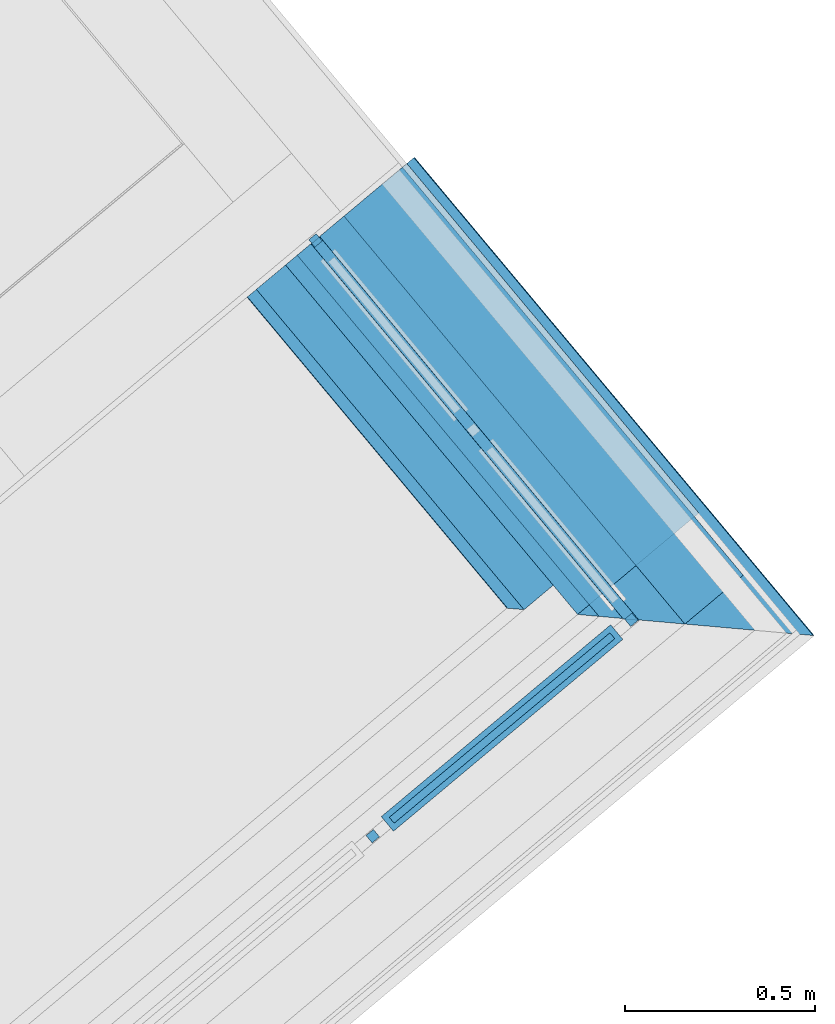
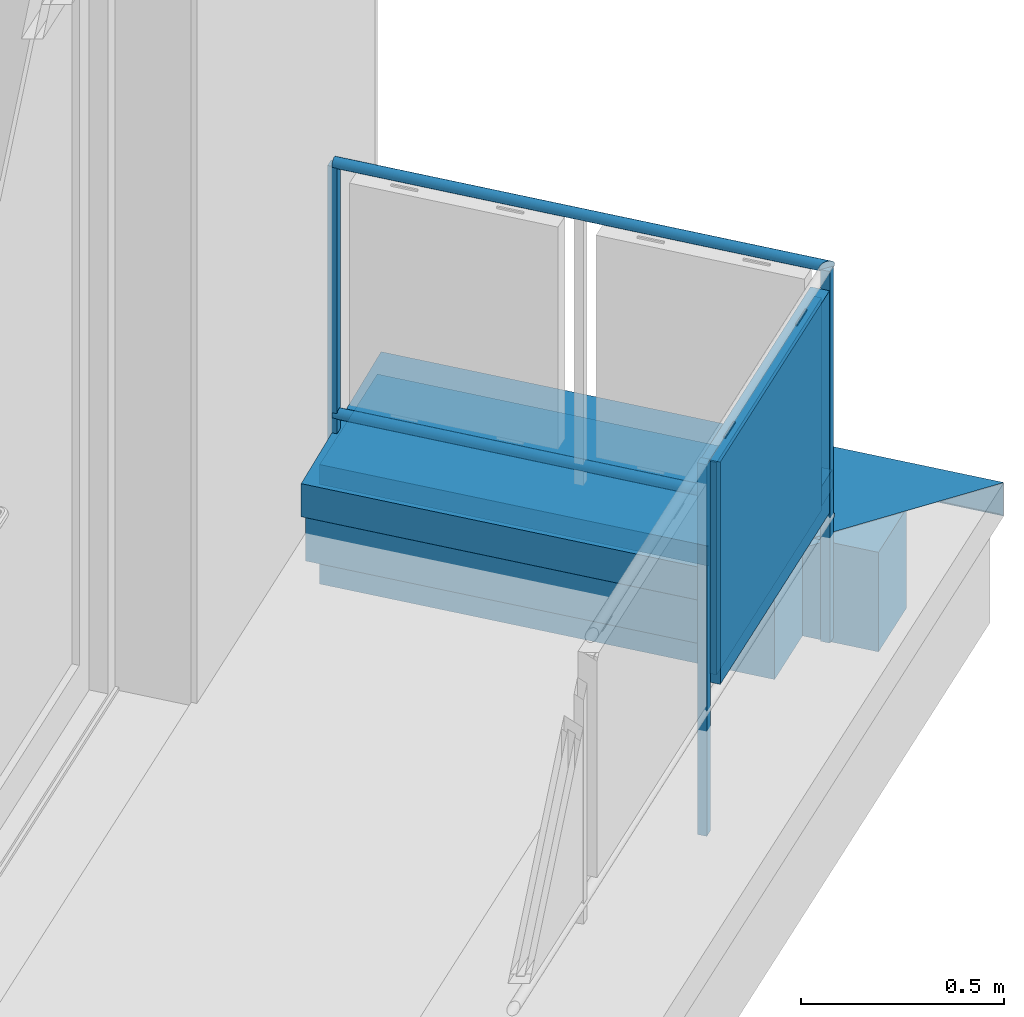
# One storey, part 34 of 47: 14 building element parts, 2 elements without a shape of their own.
"""IFC4 building model written with IfcOpenShell, lengths in metres."""

from ifc_helpers import new_model, entity, si_unit, converted_unit, derived_unit, direction, frame, origin_with_axes, place, context, subcontext, project, spatial, polygons, material, type_object, element, aggregate, save


model = new_model("IFC4")

# Units and contexts
model_context = context("Model", 3, precision=1e-05, world=origin_with_axes(), true_north=direction((0.0, 1.0)))
body_context = subcontext(model_context, "Body", "Model", "MODEL_VIEW")
ifc_project = project(units=[si_unit("LENGTHUNIT", "METRE"), si_unit("AREAUNIT", "SQUARE_METRE"), si_unit("VOLUMEUNIT", "CUBIC_METRE"), converted_unit("PLANEANGLEUNIT", "DEGREE", entity("IfcPlaneAngleMeasure", 0.0174532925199), si_unit("PLANEANGLEUNIT", "RADIAN"), dimensions=[0, 0, 0, 0, 0, 0, 0]), converted_unit("TIMEUNIT", "Year", entity("IfcTimeMeasure", 31556926.0), si_unit("TIMEUNIT", "SECOND"), dimensions=[0, 0, 1, 0, 0, 0, 0]), si_unit("MASSUNIT", "GRAM", prefix="KILO"), si_unit("THERMODYNAMICTEMPERATUREUNIT", "DEGREE_CELSIUS"), si_unit("LUMINOUSINTENSITYUNIT", "LUMEN"), si_unit("ENERGYUNIT", "JOULE", prefix="MEGA"), derived_unit("THERMALCONDUCTANCEUNIT", [(si_unit("POWERUNIT", "WATT"), 1), (si_unit("LENGTHUNIT", "METRE"), -1), (si_unit("THERMODYNAMICTEMPERATUREUNIT", "KELVIN"), -1)]), derived_unit("SPECIFICHEATCAPACITYUNIT", [(si_unit("ENERGYUNIT", "JOULE"), 1), (si_unit("MASSUNIT", "GRAM", prefix="KILO"), -1), (si_unit("THERMODYNAMICTEMPERATUREUNIT", "KELVIN"), -1)]), derived_unit("MASSDENSITYUNIT", [(si_unit("MASSUNIT", "GRAM", prefix="KILO"), 1), (si_unit("VOLUMEUNIT", "CUBIC_METRE"), -1)])], contexts=[model_context])

# Site, building, storey
site_placement = place(None, frame((-0.00153261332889, -0.00661245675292, 0.0), z_axis=(0.0, 0.0, 1.0), x_axis=(1.0, 0.0, 0.0)))
site = spatial("IfcSite", under=ifc_project, at=site_placement, Name="Site", CompositionType="ELEMENT")
building_placement = place(site_placement, origin_with_axes())
building = spatial("IfcBuilding", under=site, at=building_placement, Name="Building", CompositionType="ELEMENT")
storey_placement = place(building_placement, frame((0.0, 0.0, 8.66), z_axis=(0.0, 0.0, 1.0), x_axis=(1.0, 0.0, 0.0)))
storey = spatial("IfcBuildingStorey", under=building, at=storey_placement, Name="DG2", CompositionType="ELEMENT", Elevation=8.66)

# Wall, building element parts
wall_type = type_object("IfcWallType", Name="Bauteil - Attika Terrasse 1.DG 574 x 410", PredefinedType="NOTDEFINED")
wall_placement = place(storey_placement, frame((13.0950046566, 20.3058232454, -0.2), z_axis=(0.0, 0.0, 1.0), x_axis=(-0.641209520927, 0.767365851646, 0.0)))
wall = element("IfcWall", 1, at=wall_placement, inside=storey, type_object=wall_type, Name="Wand-005", PredefinedType="NOTDEFINED")
ifc_material_1 = material(Name="Stahl")
building_element_part_1_placement = place(wall_placement, origin_with_axes())
building_element_part_1 = element("IfcBuildingElementPart", 2, at=building_element_part_1_placement, material=ifc_material_1, Name="Stahl", PredefinedType="NOTDEFINED", context=body_context, shape_type="Tessellation", body=[
    polygons([(0.331835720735, 0.332051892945, 0.498822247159), (0.331835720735, 0.332051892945, 0.49100648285), (0.331836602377, 0.330698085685, 0.491006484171), (0.331836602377, 0.330698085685, 0.498822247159), (0.331835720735, 0.332051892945, 0.489652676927), (0.331835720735, 0.332051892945, 0.499999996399), (0.331835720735, 0.332051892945, 0.50905023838), (0.331835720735, 0.332051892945, 0.511361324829), (0.331835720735, 0.332051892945, 0.519224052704), (0.331835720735, 0.332051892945, 0.559999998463), (0.331835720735, 0.332051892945, 0.567947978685), (0.331835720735, 0.332051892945, 0.573880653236), (0.331835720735, 0.332051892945, 0.575979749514), (0.331835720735, 0.332051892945, 0.584015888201), (0.331835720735, 0.332051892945, 0.586106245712), (0.331835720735, 0.332051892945, 0.587938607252), (0.331835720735, 0.332051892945, 0.589243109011), (1.39632238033, 0.332051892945, 0.589243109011), (1.39632238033, 0.332051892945, 0.489652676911), (0.331836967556, 0.330137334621, 0.489652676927), (0.331837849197, 0.328783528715, 0.491006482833), (1.39632238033, 0.330698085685, 0.491006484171), (1.39632238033, 0.330698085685, 0.587937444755), (0.331836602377, 0.330698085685, 0.587937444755), (0.331836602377, 0.330698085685, 0.586106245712), (0.331836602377, 0.330698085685, 0.584015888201), (0.331836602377, 0.330698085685, 0.575979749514), (0.331836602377, 0.330698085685, 0.573880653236), (0.331836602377, 0.330698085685, 0.567947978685), (0.331836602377, 0.330698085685, 0.559999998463), (0.331836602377, 0.330698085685, 0.519224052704), (0.331836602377, 0.330698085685, 0.511361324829), (0.331836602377, 0.330698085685, 0.50905023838), (0.331836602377, 0.330698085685, 0.499999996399), (0.33183662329, 0.330665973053, 0.587938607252), (0.331860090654, 0.294630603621, 0.589243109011), (-0.201718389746, -0.201849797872, 0.608570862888), (-0.202598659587, -0.202730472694, 0.608602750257), (-0.241342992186, -0.241500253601, 0.610006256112), (1.39632238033, -0.241500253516, 0.610006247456), (1.39632238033, 0.331094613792, 0.488695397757), (1.39632238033, -0.241500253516, 0.510007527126), (1.39632238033, -0.240542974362, 0.509050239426), (1.39632238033, -0.231373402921, 0.518219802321), (1.39632238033, -0.232283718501, 0.519224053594), (1.39632238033, -0.240146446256, 0.51136132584), (1.39632238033, -0.240152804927, 0.608602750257), (1.39632238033, -0.239276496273, 0.608570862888), (1.39632238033, 0.32288233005, 0.498822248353), (1.39632238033, 0.321878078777, 0.497911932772), (0.330879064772, 0.331094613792, 0.488695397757), (0.323583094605, 0.32187807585, 0.497911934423), (0.330484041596, 0.328783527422, 0.49100648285), (0.330482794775, 0.33069808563, 0.49100648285), (-0.201694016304, -0.239276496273, 0.608570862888), (0.322672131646, 0.322882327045, 0.498822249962), (-0.202574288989, -0.240152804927, 0.608602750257), (-0.202573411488, -0.241500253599, 0.608602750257), (-0.239995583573, -0.241500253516, 0.608602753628), (-0.239995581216, -0.241500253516, 0.608570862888), (-0.239994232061, -0.241500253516, 0.587938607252), (-0.239994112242, -0.241500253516, 0.586106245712), (-0.239993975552, -0.241500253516, 0.584015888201), (-0.239993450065, -0.241500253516, 0.575979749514), (-0.239993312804, -0.241500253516, 0.573880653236), (-0.239992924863, -0.241500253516, 0.567947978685), (-0.23999240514, -0.241500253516, 0.560000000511), (-0.239989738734, -0.241500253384, 0.519224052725), (-0.239989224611, -0.241500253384, 0.511361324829), (-0.238074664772, -0.241500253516, 0.511361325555), (-0.239428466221, -0.241500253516, 0.510007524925), (-0.240386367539, -0.240542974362, 0.50905023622), (-0.238076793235, -0.238231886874, 0.511361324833), (-0.231222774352, -0.23137340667, 0.518219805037), (-0.232132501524, -0.23228372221, 0.519224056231), (-0.231221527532, -0.233287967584, 0.518219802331), (-0.23807554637, -0.24014644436, 0.511361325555), (-0.239990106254, -0.24014644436, 0.511361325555), (-0.239990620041, -0.240146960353, 0.519224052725), (-0.239993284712, -0.240149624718, 0.560000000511), (-0.239993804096, -0.240150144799, 0.567947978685), (-0.239994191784, -0.240150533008, 0.573880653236), (-0.239994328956, -0.240150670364, 0.575979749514), (-0.239994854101, -0.240151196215, 0.584015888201), (-0.239994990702, -0.240151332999, 0.586106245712), (-0.239995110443, -0.240151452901, 0.587938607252), (-0.239996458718, -0.240152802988, 0.608570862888), (-0.239996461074, -0.240152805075, 0.608602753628)], [[[1, 2, 3, 4]], [[5, 2, 1, 6, 7, 8, 9, 10, 11, 12, 13, 14, 15, 16, 17, 18, 19]], [[2, 5, 20, 21, 3]], [[22, 23, 24, 25, 26, 27, 28, 29, 30, 31, 32, 33, 34, 4, 3]], [[1, 4, 34, 6]], [[7, 6, 34, 33]], [[8, 7, 33, 32]], [[9, 8, 32, 31]], [[10, 9, 31, 30]], [[11, 10, 30, 29]], [[12, 11, 29, 28]], [[13, 12, 28, 27]], [[14, 13, 27, 26]], [[15, 14, 26, 25]], [[16, 15, 25, 24]], [[17, 16, 24, 35, 36]], [[18, 17, 37, 38, 39, 40]], [[41, 19, 18, 40, 42, 43, 44, 45, 46, 47, 48, 23, 22, 49, 50]], [[5, 19, 41, 51]], [[5, 51, 20]], [[41, 50, 52, 53, 21, 20, 51]], [[53, 54, 3, 21]], [[24, 23, 48, 55, 36, 35]], [[49, 22, 3, 54, 56]], [[37, 17, 36, 55]], [[38, 37, 55, 57]], [[38, 57, 58, 39]], [[42, 40, 39, 58, 59, 60, 61, 62, 63, 64, 65, 66, 67, 68, 69, 70, 71]], [[43, 42, 71, 72]], [[44, 43, 72, 73, 74]], [[45, 44, 74, 75]], [[46, 45, 75, 76, 77]], [[47, 46, 77, 78, 79, 80, 81, 82, 83, 84, 85, 86, 87, 88, 57]], [[48, 47, 57, 55]], [[50, 49, 56, 52]], [[56, 54, 53, 52]], [[58, 57, 88, 59]], [[87, 60, 59, 88]], [[86, 61, 60, 87]], [[85, 62, 61, 86]], [[84, 63, 62, 85]], [[84, 83, 64, 63]], [[83, 82, 65, 64]], [[82, 81, 66, 65]], [[81, 80, 67, 66]], [[80, 79, 68, 67]], [[79, 78, 69, 68]], [[78, 77, 70, 69]], [[77, 73, 72, 71, 70]], [[73, 77, 76, 74]], [[75, 74, 76]]], closed=True),
])
ifc_material_2 = material(Name="Holzwerkstoff")
building_element_part_2_placement = place(wall_placement, origin_with_axes())
building_element_part_2 = element("IfcBuildingElementPart", 3, at=building_element_part_2_placement, material=ifc_material_2, Name="Holzwerkstoff", PredefinedType="NOTDEFINED", context=body_context, shape_type="Tessellation", body=[
    polygons([(1.39632238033, 0.329999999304, 0.567947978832), (1.39632238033, 0.160110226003, 0.573880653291), (0.330102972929, 0.160110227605, 0.573880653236), (0.329785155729, 0.329999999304, 0.567947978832), (1.39632238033, 0.330698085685, 0.587938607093), (1.39632238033, -0.239276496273, 0.608570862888), (1.39632238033, -0.239999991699, 0.587852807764), (1.39632238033, -0.189984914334, 0.586106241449), (1.39632238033, -0.130124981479, 0.584015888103), (1.39632238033, 0.100000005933, 0.575979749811), (0.330215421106, 0.100000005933, 0.575979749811), (0.329992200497, 0.330207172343, 0.573880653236), (0.330065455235, 0.330280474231, 0.57597974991), (0.33034590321, 0.330561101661, 0.584015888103), (0.330418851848, 0.330634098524, 0.586106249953), (0.330482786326, 0.330698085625, 0.587938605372), (-0.239120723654, -0.239276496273, 0.608570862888), (0.330854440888, -0.23999699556, 0.587938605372), (0.330851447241, -0.239999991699, 0.587852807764), (0.330757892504, -0.189984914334, 0.586106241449), (0.330645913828, -0.130124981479, 0.584015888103)], [[[1, 2, 3, 4]], [[1, 5, 6, 7, 8, 9, 10, 2]], [[2, 10, 11, 3]], [[12, 4, 3]], [[5, 1, 4, 12, 13, 14, 15, 16]], [[5, 16, 17, 6]], [[7, 6, 17, 18, 19]], [[8, 7, 19, 20]], [[9, 8, 20, 21]], [[10, 9, 21, 11]], [[13, 12, 3, 11]], [[14, 13, 11, 21]], [[15, 14, 21, 20]], [[16, 15, 20, 19, 18]], [[17, 16, 18]]], closed=True),
])
ifc_material_3 = material(Name="EPS 1")
building_element_part_3_placement = place(wall_placement, origin_with_axes())
building_element_part_3 = element("IfcBuildingElementPart", 4, at=building_element_part_3_placement, material=ifc_material_3, Name="EPS 1", PredefinedType="NOTDEFINED", context=body_context, shape_type="Tessellation", body=[
    polygons([(0.299804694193, 0.3, 0.560000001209), (0.299869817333, 0.2, 0.560000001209), (1.39632238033, 0.2, 0.560000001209), (1.39632238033, 0.3, 0.560000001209), (0.299869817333, 0.2, 0.519224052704), (0.299804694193, 0.3, 0.519224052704), (0.299869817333, 0.2, 0.511361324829), (0.299869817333, 0.2, 0.50905023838), (0.299869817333, 0.2, 0.499999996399), (0.299869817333, 0.2, 0.498822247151), (0.299869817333, 0.2, 0.49100648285), (0.299869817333, 0.2, 0.488695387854), (0.299869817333, 0.2, 0.335), (1.39632238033, 0.2, 0.335), (1.39632238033, 0.3, 0.335), (0.299804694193, 0.3, 0.335), (0.299804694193, 0.3, 0.488695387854), (0.299804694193, 0.3, 0.49100648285), (0.299804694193, 0.3, 0.498822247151), (0.299804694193, 0.3, 0.499999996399), (0.299804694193, 0.3, 0.50905023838), (0.299804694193, 0.3, 0.511361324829)], [[[1, 2, 3, 4]], [[5, 2, 1, 6]], [[2, 5, 7, 8, 9, 10, 11, 12, 13, 14, 3]], [[3, 14, 15, 4]], [[6, 1, 4, 15, 16, 17, 18, 19, 20, 21, 22]], [[5, 6, 22, 7]], [[7, 22, 21, 8]], [[20, 9, 8, 21]], [[19, 10, 9, 20]], [[10, 19, 18, 11]], [[11, 18, 17, 12]], [[12, 17, 16, 13]], [[13, 16, 15, 14]]], closed=True),
])
ifc_material_4 = material(Name="Vollholz")
building_element_part_4_placement = place(wall_placement, origin_with_axes())
building_element_part_4 = element("IfcBuildingElementPart", 5, at=building_element_part_4_placement, material=ifc_material_4, Name="Vollholz", PredefinedType="NOTDEFINED", context=body_context, shape_type="Tessellation", body=[
    polygons([(0.159958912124, 0.160063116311, 0.567947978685), (0.159895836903, 0.16, 0.560000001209), (0.159934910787, 0.1, 0.560000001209), (0.159998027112, 0.1, 0.567947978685), (0.160005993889, 0.160110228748, 0.573880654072), (1.39632238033, 0.160110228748, 0.573880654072), (1.39632238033, 0.16, 0.560000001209), (1.39632238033, 0.1, 0.560000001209), (1.39632238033, 0.1, 0.575979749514), (0.0999348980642, 0.1, 0.575979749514), (0.160045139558, 0.1, 0.573880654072)], [[[1, 2, 3, 4]], [[5, 6, 7, 2, 1]], [[7, 8, 3, 2]], [[8, 9, 10, 11, 4, 3]], [[5, 1, 4, 11]], [[6, 5, 10, 9]], [[7, 6, 9, 8]], [[5, 11, 10]]], closed=True),
])
ifc_material_5 = material(Name="Stahlbeton")
building_element_part_5_placement = place(wall_placement, origin_with_axes())
building_element_part_5 = element("IfcBuildingElementPart", 6, at=building_element_part_5_placement, material=ifc_material_5, Name="Stahlbeton", PredefinedType="NOTDEFINED", context=body_context, shape_type="Tessellation", body=[
    polygons([(0.199869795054, 0.199999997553, 0.500000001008), (0.200000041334, 4.57443860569e-10, 0.500000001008), (1.39632238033, 1.8283543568e-09, 0.500000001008), (1.39632238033, 0.199999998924, 0.500000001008), (0.200000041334, 0.0, 0.498822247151), (0.199869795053, 0.199999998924, 0.498822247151), (0.200000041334, 0.0, 0.49100648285), (0.200000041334, 0.0, 0.488695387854), (0.200000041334, 0.0, 0.335), (0.200000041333, 1.1539533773e-09, 0.2), (1.39632238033, 1.8283543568e-09, 0.2), (1.39632238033, 0.199999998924, 0.2), (1.39632238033, 0.199999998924, 0.335000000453), (0.199869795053, 0.199999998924, 0.335), (0.199869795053, 0.199999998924, 0.488695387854), (0.199869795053, 0.199999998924, 0.49100648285), (0.199869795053, 0.199999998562, 0.2)], [[[1, 2, 3, 4]], [[5, 2, 1, 6]], [[2, 5, 7, 8, 9, 10, 11, 3]], [[11, 12, 13, 4, 3]], [[6, 1, 4, 13, 14, 15, 16]], [[5, 6, 16, 7]], [[16, 15, 8, 7]], [[14, 9, 8, 15]], [[10, 9, 14, 17]], [[10, 17, 12, 11]], [[17, 14, 13, 12]]], closed=True),
])
building_element_part_6_placement = place(wall_placement, origin_with_axes())
building_element_part_6 = element("IfcBuildingElementPart", 7, at=building_element_part_6_placement, material=ifc_material_3, Name="EPS 1", PredefinedType="NOTDEFINED", context=body_context, shape_type="Tessellation", body=[
    polygons([(-2.38710384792e-10, -1.8400143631e-09, 0.499999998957), (0.000130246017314, -0.199999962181, 0.499999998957), (1.39632238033, -0.19999996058, 0.499999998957), (1.39632238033, -2.39911202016e-10, 0.499999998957), (0.000130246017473, -0.199999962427, 0.498822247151), (-2.39163355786e-10, -1.14826192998e-09, 0.498822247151), (0.000130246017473, -0.199999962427, 0.49100648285), (0.000130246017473, -0.199999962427, 0.488695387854), (0.000130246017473, -0.199999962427, 0.335), (0.00013024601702, -0.199999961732, 0.2), (1.39632238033, -0.19999996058, 0.2), (1.39632238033, -2.39911202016e-10, 0.2), (-2.39243291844e-10, -1.02706465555e-09, 0.2), (-2.39163355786e-10, -1.14826192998e-09, 0.335), (-2.39163355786e-10, -1.14826192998e-09, 0.488695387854), (-2.39163355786e-10, -1.14826192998e-09, 0.49100648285)], [[[1, 2, 3, 4]], [[5, 2, 1, 6]], [[2, 5, 7, 8, 9, 10, 11, 3]], [[11, 12, 4, 3]], [[6, 1, 4, 12, 13, 14, 15, 16]], [[5, 6, 16, 7]], [[7, 16, 15, 8]], [[8, 15, 14, 9]], [[9, 14, 13, 10]], [[10, 13, 12, 11]]], closed=True),
])
ifc_material_6 = material(Name="Brettschichtholz")
building_element_part_7_placement = place(wall_placement, origin_with_axes())
building_element_part_7 = element("IfcBuildingElementPart", 8, at=building_element_part_7_placement, material=ifc_material_6, Name="Brettschichtholz", PredefinedType="NOTDEFINED", context=body_context, shape_type="Tessellation", body=[
    polygons([(0.200123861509, -0.190124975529, 0.559999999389), (0.200140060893, -0.214999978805, 0.559999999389), (1.39632238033, -0.214999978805, 0.559999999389), (1.39632238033, -0.190124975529, 0.559999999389), (0.200140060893, -0.214999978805, 0.519224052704), (0.200084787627, -0.130124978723, 0.559999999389), (0.199934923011, 0.100000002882, 0.559999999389), (0.199895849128, 0.159999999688, 0.559999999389), (0.199869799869, 0.200000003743, 0.559999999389), (0.199869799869, 0.200000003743, 0.519224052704), (0.200140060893, -0.214999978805, 0.511361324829), (0.200140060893, -0.214999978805, 0.50905023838), (0.200140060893, -0.214999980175, 0.500000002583), (1.39632238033, -0.214999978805, 0.499999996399), (1.39632238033, 0.200000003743, 0.500000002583), (1.39632238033, 0.200000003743, 0.559999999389), (1.39632238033, 0.159999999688, 0.559999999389), (1.39632238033, 0.100000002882, 0.559999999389), (1.39632238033, -0.130124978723, 0.559999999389), (0.19986979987, 0.200000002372, 0.500000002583), (0.199869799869, 0.200000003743, 0.50905023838), (0.199869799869, 0.200000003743, 0.511361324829)], [[[1, 2, 3, 4]], [[5, 2, 1, 6, 7, 8, 9, 10]], [[2, 5, 11, 12, 13, 14, 3]], [[3, 14, 15, 16, 17, 18, 19, 4]], [[6, 1, 4, 19]], [[7, 6, 19, 18]], [[8, 7, 18, 17]], [[9, 8, 17, 16]], [[10, 9, 16, 15, 20, 21, 22]], [[5, 10, 22, 11]], [[22, 21, 12, 11]], [[12, 21, 20, 13]], [[20, 15, 14, 13]]], closed=True),
])
aggregate(wall, [building_element_part_1, building_element_part_2, building_element_part_3, building_element_part_4, building_element_part_5, building_element_part_6, building_element_part_7])

# Railing, building element parts
railing_type = type_object("IfcRailingType", Name="Geländerart", PredefinedType="NOTDEFINED")
railing_placement = place(storey_placement, frame((8.09801261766, 17.9211539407, 0.38), z_axis=(0.0, 0.0, 1.0), x_axis=(1.0, 0.0, 0.0)))
railing = element("IfcRailing", 9, at=railing_placement, inside=storey, type_object=railing_type, Name="Geländer - 001", PredefinedType="NOTDEFINED")
ifc_material_7 = material(Name="Aluminium")
building_element_part_8_placement = place(railing_placement, origin_with_axes())
building_element_part_8 = element("IfcBuildingElementPart", 10, at=building_element_part_8_placement, material=ifc_material_7, Name="Aluminium", PredefinedType="NOTDEFINED", context=body_context, shape_type="Tessellation", body=[
    polygons([(4.87392007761, 2.39415632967, -0.3), (4.85787906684, 2.41333146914, -0.3), (4.85787906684, 2.41333146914, 0.82), (4.87392007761, 2.39415632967, 0.82), (4.85474493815, 2.3781153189, -0.3), (4.83870392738, 2.39729045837, -0.3), (4.83870392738, 2.39729045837, 0.82), (4.85474493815, 2.3781153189, 0.82)], [[[1, 2, 3, 4]], [[1, 5, 6, 2]], [[2, 6, 7, 3]], [[4, 3, 7, 8]], [[5, 1, 4, 8]], [[6, 5, 8, 7]]], closed=True),
])
building_element_part_9_placement = place(railing_placement, origin_with_axes())
building_element_part_9 = element("IfcBuildingElementPart", 11, at=building_element_part_9_placement, material=ifc_material_7, Name="Aluminium", PredefinedType="NOTDEFINED", context=body_context, shape_type="Tessellation", body=[
    polygons([(4.02846962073, 3.40999577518, -0.3), (4.00925363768, 3.39400371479, -0.3), (4.00925363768, 3.39400371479, 0.82), (4.02846962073, 3.40999577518, 0.82), (4.04446168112, 3.39077979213, -0.3), (4.02524569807, 3.37478773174, -0.3), (4.02524569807, 3.37478773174, 0.82), (4.04446168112, 3.39077979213, 0.82)], [[[1, 2, 3, 4]], [[1, 5, 6, 2]], [[2, 6, 7, 3]], [[4, 3, 7, 8]], [[5, 1, 4, 8]], [[6, 5, 8, 7]]], closed=True),
])
building_element_part_10_placement = place(railing_placement, origin_with_axes())
building_element_part_10 = element("IfcBuildingElementPart", 12, at=building_element_part_10_placement, material=ifc_material_7, Name="Aluminium", PredefinedType="NOTDEFINED", context=body_context, shape_type="Tessellation", body=[
    polygons([(4.19487765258, 1.82610169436, -0.3), (4.17883664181, 1.84527683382, -0.3), (4.17883664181, 1.84527683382, 0.82), (4.19487765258, 1.82610169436, 0.82), (4.17570251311, 1.81006068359, -0.3), (4.15966150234, 1.82923582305, -0.3), (4.15966150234, 1.82923582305, 0.82), (4.17570251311, 1.81006068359, 0.82)], [[[1, 2, 3, 4]], [[1, 5, 6, 2]], [[2, 6, 7, 3]], [[4, 3, 7, 8]], [[5, 1, 4, 8]], [[6, 5, 8, 7]]], closed=True),
])
ifc_material_8 = material(Name="Profilit")
building_element_part_11_placement = place(railing_placement, origin_with_axes())
building_element_part_11 = element("IfcBuildingElementPart", 13, at=building_element_part_11_placement, material=ifc_material_8, Name="Profilit", PredefinedType="NOTDEFINED", context=body_context, shape_type="Tessellation", body=[
    polygons([(4.80004023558, 2.3616868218, 0.135), (4.22070853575, 1.8770454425, 0.135), (4.22070853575, 1.8770454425, 0.775), (4.80004023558, 2.3616868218, 0.775), (4.23354134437, 1.86170533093, 0.135), (4.8128730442, 2.34634671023, 0.135), (4.23354134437, 1.86170533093, 0.775), (4.8128730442, 2.34634671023, 0.775)], [[[1, 2, 3, 4]], [[5, 2, 1, 6]], [[7, 3, 2, 5]], [[4, 3, 7, 8]], [[1, 4, 8, 6]], [[7, 5, 6, 8]]], closed=True),
])
building_element_part_12_placement = place(railing_placement, origin_with_axes())
building_element_part_12 = element("IfcBuildingElementPart", 14, at=building_element_part_12_placement, material=ifc_material_7, Name="Aluminium", PredefinedType="NOTDEFINED", context=body_context, shape_type="Tessellation", body=[
    polygons([(4.29071631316, 1.92583233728, 0.12), (4.34440670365, 1.97074716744, 0.12), (4.34440670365, 1.97074716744, 0.095), (4.29071631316, 1.92583233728, 0.095), (4.29392451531, 1.92199730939, 0.12), (4.34761490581, 1.96691213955, 0.12), (4.34761490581, 1.96691213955, 0.095), (4.29392451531, 1.92199730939, 0.095)], [[[1, 2, 3, 4]], [[5, 6, 2, 1]], [[2, 6, 7, 3]], [[4, 3, 7, 8]], [[1, 4, 8, 5]], [[8, 7, 6, 5]]], closed=True),
    polygons([(4.68596667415, 2.25648001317, 0.12), (4.73965706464, 2.30139484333, 0.12), (4.73965706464, 2.30139484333, 0.095), (4.68596667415, 2.25648001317, 0.095), (4.6891748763, 2.25264498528, 0.12), (4.7428652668, 2.29755981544, 0.12), (4.7428652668, 2.29755981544, 0.095), (4.6891748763, 2.25264498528, 0.095)], [[[1, 2, 3, 4]], [[5, 6, 2, 1]], [[2, 6, 7, 3]], [[4, 3, 7, 8]], [[1, 4, 8, 5]], [[8, 7, 6, 5]]], closed=True),
    polygons([(4.73965706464, 2.30139484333, 0.79), (4.68596667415, 2.25648001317, 0.79), (4.68596667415, 2.25648001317, 0.795), (4.73965706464, 2.30139484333, 0.795), (4.7428652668, 2.29755981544, 0.79), (4.6891748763, 2.25264498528, 0.79), (4.6891748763, 2.25264498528, 0.795), (4.7428652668, 2.29755981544, 0.795)], [[[1, 2, 3, 4]], [[5, 6, 2, 1]], [[2, 6, 7, 3]], [[4, 3, 7, 8]], [[1, 4, 8, 5]], [[8, 7, 6, 5]]], closed=True),
    polygons([(4.34440670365, 1.97074716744, 0.79), (4.29071631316, 1.92583233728, 0.79), (4.29071631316, 1.92583233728, 0.795), (4.34440670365, 1.97074716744, 0.795), (4.34761490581, 1.96691213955, 0.79), (4.29392451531, 1.92199730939, 0.79), (4.29392451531, 1.92199730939, 0.795), (4.34761490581, 1.96691213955, 0.795)], [[[1, 2, 3, 4]], [[5, 6, 2, 1]], [[2, 6, 7, 3]], [[4, 3, 7, 8]], [[1, 4, 8, 5]], [[8, 7, 6, 5]]], closed=True),
    polygons([(4.23166086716, 1.84057564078, 0.12), (4.19957884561, 1.87892591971, 0.12), (4.8019207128, 2.38281651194, 0.12), (4.83400273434, 2.34446623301, 0.12), (4.24700097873, 1.8534084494, 0.14), (4.23737637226, 1.86491353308, 0.14), (4.23354134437, 1.86170533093, 0.135), (4.22070853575, 1.8770454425, 0.135), (4.22454356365, 1.88025364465, 0.14), (4.21491895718, 1.89175872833, 0.14), (4.78658060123, 2.36998370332, 0.14), (4.78658060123, 2.36998370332, 0.77), (4.21491895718, 1.89175872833, 0.77), (4.21491895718, 1.89175872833, 0.14), (4.19957884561, 1.87892591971, 0.12), (4.19957884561, 1.87892591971, 0.79), (4.8019207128, 2.38281651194, 0.79), (4.83400273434, 2.34446623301, 0.79), (4.23166086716, 1.84057564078, 0.79), (4.23166086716, 1.84057564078, 0.12), (4.24700097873, 1.8534084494, 0.14), (4.24700097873, 1.8534084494, 0.77), (4.81866262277, 2.3316334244, 0.77), (4.81866262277, 2.3316334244, 0.14), (4.80903801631, 2.34313850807, 0.14), (4.80903801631, 2.34313850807, 0.77), (4.23737637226, 1.86491353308, 0.77), (4.23737637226, 1.86491353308, 0.14), (4.23354134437, 1.86170533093, 0.135), (4.23354134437, 1.86170533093, 0.775), (4.8128730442, 2.34634671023, 0.775), (4.8128730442, 2.34634671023, 0.135), (4.80004023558, 2.3616868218, 0.135), (4.80004023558, 2.3616868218, 0.775), (4.22070853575, 1.8770454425, 0.775), (4.22070853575, 1.8770454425, 0.135), (4.22454356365, 1.88025364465, 0.14), (4.22454356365, 1.88025364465, 0.77), (4.79620520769, 2.35847861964, 0.77), (4.79620520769, 2.35847861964, 0.14)], [[[1, 2, 3, 4]], [[1, 5, 6, 7, 8, 9, 10, 2]], [[2, 10, 11, 12, 13, 14, 15, 16, 17, 3]], [[4, 3, 17, 18]], [[5, 1, 4, 18, 19, 20, 21, 22, 23, 24]], [[6, 5, 24, 25]], [[7, 6, 25, 26, 27, 28, 29, 30, 31, 32]], [[8, 7, 32, 33]], [[9, 8, 33, 34, 35, 36, 37, 38, 39, 40]], [[10, 9, 40, 11]], [[11, 40, 39, 12]], [[12, 39, 38, 13]], [[13, 38, 37, 14]], [[20, 15, 14, 37, 36, 29, 28, 21]], [[19, 16, 15, 20]], [[18, 17, 16, 19]], [[27, 22, 21, 28]], [[26, 23, 22, 27]], [[25, 24, 23, 26]], [[35, 30, 29, 36]], [[34, 31, 30, 35]], [[33, 32, 31, 34]]], closed=True),
])
building_element_part_13_placement = place(railing_placement, origin_with_axes())
building_element_part_13 = element("IfcBuildingElementPart", 15, at=building_element_part_13_placement, material=ifc_material_7, Name="Aluminium", PredefinedType="NOTDEFINED", context=body_context, shape_type="Tessellation", body=[
    polygons([(4.83521161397, 2.39762838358, 0.825), (4.83553217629, 2.39759944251, 0.827604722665), (4.01550322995, 3.38294229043, 0.827604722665), (4.01532806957, 3.38279651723, 0.825), (4.83553217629, 2.39759944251, 0.822395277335), (4.83648412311, 2.39751349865, 0.81986969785), (4.83803853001, 2.39737316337, 0.8175), (4.84014816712, 2.39718270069, 0.815358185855), (4.84274893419, 2.3969478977, 0.813509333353), (4.84576180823, 2.3966758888, 0.812009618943), (4.84909524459, 2.39637493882, 0.810904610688), (4.85264795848, 2.39605419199, 0.810227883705), (4.85631200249, 2.39572339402, 0.81), (4.85997604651, 2.39539259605, 0.810227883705), (4.8635287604, 2.39507184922, 0.810904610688), (4.86686219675, 2.39477089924, 0.812009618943), (4.86987507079, 2.39449889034, 0.813509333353), (4.87247583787, 2.39426408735, 0.815358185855), (4.87458547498, 2.39407362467, 0.8175), (4.87613988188, 2.39393328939, 0.81986969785), (4.8770918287, 2.39384734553, 0.822395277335), (4.87741239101, 2.39381840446, 0.825), (4.8770918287, 2.39384734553, 0.827604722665), (4.87613988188, 2.39393328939, 0.83013030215), (4.87458547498, 2.39407362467, 0.8325), (4.87247583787, 2.39426408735, 0.834641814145), (4.86987507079, 2.39449889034, 0.836490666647), (4.86686219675, 2.39477089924, 0.837990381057), (4.8635287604, 2.39507184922, 0.839095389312), (4.85997604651, 2.39539259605, 0.839772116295), (4.85631200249, 2.39572339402, 0.84), (4.85264795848, 2.39605419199, 0.839772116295), (4.84909524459, 2.39637493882, 0.839095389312), (4.84576180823, 2.3966758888, 0.837990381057), (4.84274893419, 2.3969478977, 0.836490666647), (4.84014816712, 2.39718270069, 0.834641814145), (4.83803853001, 2.39737316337, 0.8325), (4.83648412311, 2.39751349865, 0.83013030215), (4.01602338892, 3.38337518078, 0.83013030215), (4.01687274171, 3.38408203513, 0.8325), (4.01802548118, 3.38504137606, 0.834641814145), (4.01944658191, 3.3862240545, 0.836490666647), (4.02109286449, 3.38759413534, 0.837990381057), (4.02291430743, 3.38910998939, 0.839095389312), (4.02485556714, 3.39072555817, 0.839772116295), (4.0268576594, 3.39239175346, 0.84), (4.02885975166, 3.39405794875, 0.839772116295), (4.03080101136, 3.39567351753, 0.839095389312), (4.03262245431, 3.39718937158, 0.837990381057), (4.03426873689, 3.39855945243, 0.836490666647), (4.03568983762, 3.39974213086, 0.834641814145), (4.03684257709, 3.4007014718, 0.8325), (4.03769192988, 3.40140832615, 0.83013030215), (4.03821208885, 3.4018412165, 0.827604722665), (4.03838724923, 3.4019869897, 0.825), (4.03821208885, 3.4018412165, 0.822395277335), (4.03769192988, 3.40140832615, 0.81986969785), (4.03684257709, 3.4007014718, 0.8175), (4.03568983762, 3.39974213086, 0.815358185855), (4.03426873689, 3.39855945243, 0.813509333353), (4.03262245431, 3.39718937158, 0.812009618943), (4.03080101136, 3.39567351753, 0.810904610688), (4.02885975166, 3.39405794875, 0.810227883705), (4.0268576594, 3.39239175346, 0.81), (4.02485556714, 3.39072555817, 0.810227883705), (4.02291430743, 3.38910998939, 0.810904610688), (4.02109286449, 3.38759413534, 0.812009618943), (4.01944658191, 3.3862240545, 0.813509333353), (4.01802548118, 3.38504137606, 0.815358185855), (4.01687274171, 3.38408203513, 0.8175), (4.01602338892, 3.38337518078, 0.81986969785), (4.01550322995, 3.38294229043, 0.822395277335)], [[[1, 2, 3, 4]], [[1, 5, 6, 7, 8, 9, 10, 11, 12, 13, 14, 15, 16, 17, 18, 19, 20, 21, 22, 23, 24, 25, 26, 27, 28, 29, 30, 31, 32, 33, 34, 35, 36, 37, 38, 2]], [[2, 38, 39, 3]], [[4, 3, 39, 40, 41, 42, 43, 44, 45, 46, 47, 48, 49, 50, 51, 52, 53, 54, 55, 56, 57, 58, 59, 60, 61, 62, 63, 64, 65, 66, 67, 68, 69, 70, 71, 72]], [[5, 1, 4, 72]], [[6, 5, 72, 71]], [[7, 6, 71, 70]], [[8, 7, 70, 69]], [[9, 8, 69, 68]], [[10, 9, 68, 67]], [[11, 10, 67, 66]], [[12, 11, 66, 65]], [[13, 12, 65, 64]], [[14, 13, 64, 63]], [[15, 14, 63, 62]], [[16, 15, 62, 61]], [[17, 16, 61, 60]], [[18, 17, 60, 59]], [[19, 18, 59, 58]], [[20, 19, 58, 57]], [[21, 20, 57, 56]], [[22, 21, 56, 55]], [[23, 22, 55, 54]], [[24, 23, 54, 53]], [[25, 24, 53, 52]], [[26, 25, 52, 51]], [[27, 26, 51, 50]], [[28, 27, 50, 49]], [[29, 28, 49, 48]], [[30, 29, 48, 47]], [[31, 30, 47, 46]], [[32, 31, 46, 45]], [[33, 32, 45, 44]], [[34, 33, 44, 43]], [[35, 34, 43, 42]], [[36, 35, 42, 41]], [[37, 36, 41, 40]], [[38, 37, 40, 39]]], closed=True),
])
building_element_part_14_placement = place(railing_placement, origin_with_axes())
building_element_part_14 = element("IfcBuildingElementPart", 16, at=building_element_part_14_placement, material=ifc_material_7, Name="Aluminium", PredefinedType="NOTDEFINED", context=body_context, shape_type="Tessellation", body=[
    polygons([(4.83521161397, 2.39762838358, 0.07), (4.83553217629, 2.39759944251, 0.072604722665), (4.01550322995, 3.38294229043, 0.072604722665), (4.01532806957, 3.38279651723, 0.07), (4.83553217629, 2.39759944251, 0.067395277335), (4.83648412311, 2.39751349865, 0.0648696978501), (4.83803853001, 2.39737316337, 0.0625), (4.84014816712, 2.39718270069, 0.0603581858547), (4.84274893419, 2.3969478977, 0.0585093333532), (4.84576180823, 2.3966758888, 0.0570096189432), (4.84909524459, 2.39637493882, 0.0559046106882), (4.85264795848, 2.39605419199, 0.0552278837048), (4.85631200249, 2.39572339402, 0.055), (4.85997604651, 2.39539259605, 0.0552278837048), (4.8635287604, 2.39507184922, 0.0559046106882), (4.86686219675, 2.39477089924, 0.0570096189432), (4.86987507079, 2.39449889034, 0.0585093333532), (4.87247583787, 2.39426408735, 0.0603581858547), (4.87458547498, 2.39407362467, 0.0625), (4.87613988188, 2.39393328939, 0.0648696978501), (4.8770918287, 2.39384734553, 0.067395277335), (4.87741239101, 2.39381840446, 0.07), (4.8770918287, 2.39384734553, 0.072604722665), (4.87613988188, 2.39393328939, 0.0751303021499), (4.87458547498, 2.39407362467, 0.0775), (4.87247583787, 2.39426408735, 0.0796418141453), (4.86987507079, 2.39449889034, 0.0814906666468), (4.86686219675, 2.39477089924, 0.0829903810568), (4.8635287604, 2.39507184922, 0.0840953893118), (4.85997604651, 2.39539259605, 0.0847721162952), (4.85631200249, 2.39572339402, 0.085), (4.85264795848, 2.39605419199, 0.0847721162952), (4.84909524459, 2.39637493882, 0.0840953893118), (4.84576180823, 2.3966758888, 0.0829903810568), (4.84274893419, 2.3969478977, 0.0814906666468), (4.84014816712, 2.39718270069, 0.0796418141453), (4.83803853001, 2.39737316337, 0.0775), (4.83648412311, 2.39751349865, 0.0751303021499), (4.01602338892, 3.38337518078, 0.0751303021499), (4.01687274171, 3.38408203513, 0.0775), (4.01802548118, 3.38504137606, 0.0796418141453), (4.01944658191, 3.3862240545, 0.0814906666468), (4.02109286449, 3.38759413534, 0.0829903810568), (4.02291430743, 3.38910998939, 0.0840953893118), (4.02485556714, 3.39072555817, 0.0847721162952), (4.0268576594, 3.39239175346, 0.085), (4.02885975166, 3.39405794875, 0.0847721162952), (4.03080101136, 3.39567351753, 0.0840953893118), (4.03262245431, 3.39718937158, 0.0829903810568), (4.03426873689, 3.39855945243, 0.0814906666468), (4.03568983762, 3.39974213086, 0.0796418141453), (4.03684257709, 3.4007014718, 0.0775), (4.03769192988, 3.40140832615, 0.0751303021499), (4.03821208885, 3.4018412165, 0.072604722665), (4.03838724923, 3.4019869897, 0.07), (4.03821208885, 3.4018412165, 0.067395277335), (4.03769192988, 3.40140832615, 0.0648696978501), (4.03684257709, 3.4007014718, 0.0625), (4.03568983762, 3.39974213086, 0.0603581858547), (4.03426873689, 3.39855945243, 0.0585093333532), (4.03262245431, 3.39718937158, 0.0570096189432), (4.03080101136, 3.39567351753, 0.0559046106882), (4.02885975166, 3.39405794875, 0.0552278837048), (4.0268576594, 3.39239175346, 0.055), (4.02485556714, 3.39072555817, 0.0552278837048), (4.02291430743, 3.38910998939, 0.0559046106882), (4.02109286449, 3.38759413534, 0.0570096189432), (4.01944658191, 3.3862240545, 0.0585093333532), (4.01802548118, 3.38504137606, 0.0603581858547), (4.01687274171, 3.38408203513, 0.0625), (4.01602338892, 3.38337518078, 0.0648696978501), (4.01550322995, 3.38294229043, 0.067395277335)], [[[1, 2, 3, 4]], [[1, 5, 6, 7, 8, 9, 10, 11, 12, 13, 14, 15, 16, 17, 18, 19, 20, 21, 22, 23, 24, 25, 26, 27, 28, 29, 30, 31, 32, 33, 34, 35, 36, 37, 38, 2]], [[2, 38, 39, 3]], [[4, 3, 39, 40, 41, 42, 43, 44, 45, 46, 47, 48, 49, 50, 51, 52, 53, 54, 55, 56, 57, 58, 59, 60, 61, 62, 63, 64, 65, 66, 67, 68, 69, 70, 71, 72]], [[5, 1, 4, 72]], [[6, 5, 72, 71]], [[7, 6, 71, 70]], [[8, 7, 70, 69]], [[9, 8, 69, 68]], [[10, 9, 68, 67]], [[11, 10, 67, 66]], [[12, 11, 66, 65]], [[13, 12, 65, 64]], [[14, 13, 64, 63]], [[15, 14, 63, 62]], [[16, 15, 62, 61]], [[17, 16, 61, 60]], [[18, 17, 60, 59]], [[19, 18, 59, 58]], [[20, 19, 58, 57]], [[21, 20, 57, 56]], [[22, 21, 56, 55]], [[23, 22, 55, 54]], [[24, 23, 54, 53]], [[25, 24, 53, 52]], [[26, 25, 52, 51]], [[27, 26, 51, 50]], [[28, 27, 50, 49]], [[29, 28, 49, 48]], [[30, 29, 48, 47]], [[31, 30, 47, 46]], [[32, 31, 46, 45]], [[33, 32, 45, 44]], [[34, 33, 44, 43]], [[35, 34, 43, 42]], [[36, 35, 42, 41]], [[37, 36, 41, 40]], [[38, 37, 40, 39]]], closed=True),
])
aggregate(railing, [building_element_part_8, building_element_part_9, building_element_part_10, building_element_part_11, building_element_part_12, building_element_part_13, building_element_part_14])

save(model, "model.ifc")
